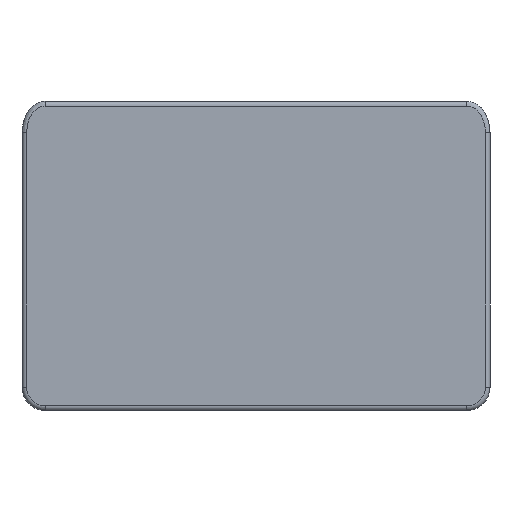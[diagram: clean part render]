
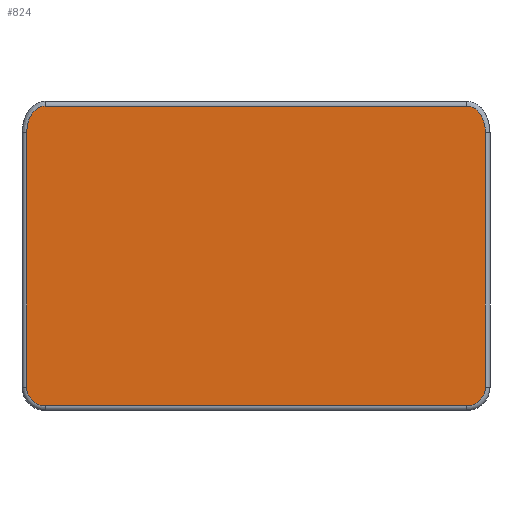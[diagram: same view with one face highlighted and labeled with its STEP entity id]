
A CAD part, left-side view. The second image highlights one B-rep face of the part: STEP entity #824.
In plain terms, the highlighted planar face has unit normal (-1, 0, 0).
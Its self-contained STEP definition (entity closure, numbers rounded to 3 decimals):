
#22=ELLIPSE('',#897,1.131,0.8);
#24=ELLIPSE('',#904,1.131,0.8);
#27=PLANE('',#903);
#66=FACE_OUTER_BOUND('',#115,.T.);
#115=EDGE_LOOP('',(#635,#636,#637,#638,#639,#640,#641,#642));
#148=CIRCLE('',#905,0.8);
#149=CIRCLE('',#906,0.8);
#241=LINE('',#2679,#285);
#243=LINE('',#2685,#287);
#244=LINE('',#2689,#288);
#245=LINE('',#2693,#289);
#285=VECTOR('',#1053,10.);
#287=VECTOR('',#1059,10.);
#288=VECTOR('',#1062,10.);
#289=VECTOR('',#1065,10.);
#364=VERTEX_POINT('',#2667);
#365=VERTEX_POINT('',#2669);
#367=VERTEX_POINT('',#2678);
#369=VERTEX_POINT('',#2684);
#370=VERTEX_POINT('',#2686);
#371=VERTEX_POINT('',#2688);
#372=VERTEX_POINT('',#2690);
#373=VERTEX_POINT('',#2692);
#470=EDGE_CURVE('',#364,#365,#22,.T.);
#475=EDGE_CURVE('',#365,#367,#241,.T.);
#478=EDGE_CURVE('',#369,#364,#243,.T.);
#479=EDGE_CURVE('',#370,#369,#24,.T.);
#480=EDGE_CURVE('',#371,#370,#244,.T.);
#481=EDGE_CURVE('',#372,#371,#148,.T.);
#482=EDGE_CURVE('',#373,#372,#245,.T.);
#483=EDGE_CURVE('',#367,#373,#149,.T.);
#635=ORIENTED_EDGE('',*,*,#470,.F.);
#636=ORIENTED_EDGE('',*,*,#478,.F.);
#637=ORIENTED_EDGE('',*,*,#479,.F.);
#638=ORIENTED_EDGE('',*,*,#480,.F.);
#639=ORIENTED_EDGE('',*,*,#481,.F.);
#640=ORIENTED_EDGE('',*,*,#482,.F.);
#641=ORIENTED_EDGE('',*,*,#483,.F.);
#642=ORIENTED_EDGE('',*,*,#475,.F.);
#824=ADVANCED_FACE('',(#66),#27,.T.);
#897=AXIS2_PLACEMENT_3D('',#2670,#1041,#1042);
#903=AXIS2_PLACEMENT_3D('',#2683,#1057,#1058);
#904=AXIS2_PLACEMENT_3D('',#2687,#1060,#1061);
#905=AXIS2_PLACEMENT_3D('',#2691,#1063,#1064);
#906=AXIS2_PLACEMENT_3D('',#2694,#1066,#1067);
#1041=DIRECTION('center_axis',(1.,0.,0.));
#1042=DIRECTION('ref_axis',(0.,0.,1.));
#1053=DIRECTION('',(0.,0.,-1.));
#1057=DIRECTION('center_axis',(-1.,0.,0.));
#1058=DIRECTION('ref_axis',(0.,0.,1.));
#1059=DIRECTION('',(0.,-1.,0.));
#1060=DIRECTION('center_axis',(1.,0.,0.));
#1061=DIRECTION('ref_axis',(0.,0.,1.));
#1062=DIRECTION('',(0.,0.,1.));
#1063=DIRECTION('center_axis',(1.,0.,0.));
#1064=DIRECTION('ref_axis',(0.,0.707,-0.707));
#1065=DIRECTION('',(0.,1.,0.));
#1066=DIRECTION('center_axis',(1.,0.,0.));
#1067=DIRECTION('ref_axis',(0.,-0.707,-0.707));
#2667=CARTESIAN_POINT('',(60.5,-9.,25.517));
#2669=CARTESIAN_POINT('',(60.5,-9.8,24.386));
#2670=CARTESIAN_POINT('Origin',(60.5,-9.,24.386));
#2678=CARTESIAN_POINT('',(60.5,-9.8,13.5));
#2679=CARTESIAN_POINT('',(60.5,-9.8,22.));
#2683=CARTESIAN_POINT('Origin',(60.5,0.,18.));
#2684=CARTESIAN_POINT('',(60.5,9.,25.517));
#2685=CARTESIAN_POINT('',(60.5,-13.375,25.517));
#2686=CARTESIAN_POINT('',(60.5,9.8,24.386));
#2687=CARTESIAN_POINT('Origin',(60.5,9.,24.386));
#2688=CARTESIAN_POINT('',(60.5,9.8,13.5));
#2689=CARTESIAN_POINT('',(60.5,9.8,14.));
#2690=CARTESIAN_POINT('',(60.5,9.,12.7));
#2691=CARTESIAN_POINT('Origin',(60.5,9.,13.5));
#2692=CARTESIAN_POINT('',(60.5,-9.,12.7));
#2693=CARTESIAN_POINT('',(60.5,-5.,12.7));
#2694=CARTESIAN_POINT('Origin',(60.5,-9.,13.5));
